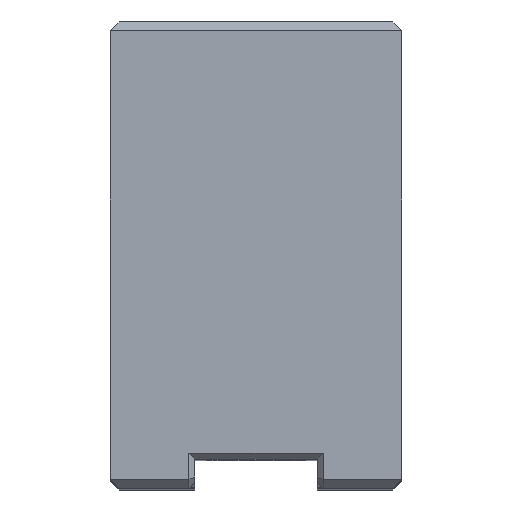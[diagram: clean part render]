
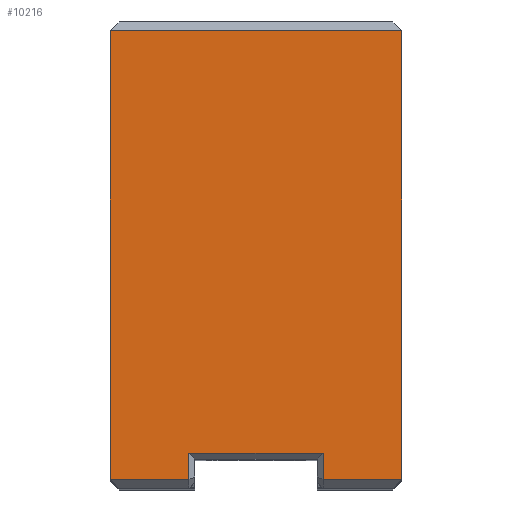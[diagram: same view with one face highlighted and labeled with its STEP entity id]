
A CAD part, top view. The second image highlights one B-rep face of the part: STEP entity #10216.
In plain terms, the highlighted planar face has unit normal (0, 0, 1).
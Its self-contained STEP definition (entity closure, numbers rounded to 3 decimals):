
#56=FACE_OUTER_BOUND('',#696,.T.);
#696=EDGE_LOOP('',(#7071,#7072,#7073,#7074,#7075,#7076,#7077,#7078));
#1751=LINE('',#15152,#3223);
#1753=LINE('',#15156,#3225);
#1755=LINE('',#15159,#3227);
#1761=LINE('',#15172,#3233);
#1763=LINE('',#15176,#3235);
#1764=LINE('',#15178,#3236);
#1765=LINE('',#15180,#3237);
#1766=LINE('',#15181,#3238);
#3223=VECTOR('',#11970,10.);
#3225=VECTOR('',#11974,10.);
#3227=VECTOR('',#11978,10.);
#3233=VECTOR('',#11990,10.);
#3235=VECTOR('',#11994,10.);
#3236=VECTOR('',#11995,10.);
#3237=VECTOR('',#11996,10.);
#3238=VECTOR('',#11997,10.);
#4683=VERTEX_POINT('',#15137);
#4685=VERTEX_POINT('',#15143);
#4687=VERTEX_POINT('',#15151);
#4688=VERTEX_POINT('',#15155);
#4692=VERTEX_POINT('',#15171);
#4693=VERTEX_POINT('',#15175);
#4694=VERTEX_POINT('',#15177);
#4695=VERTEX_POINT('',#15179);
#5547=EDGE_CURVE('',#4685,#4687,#1751,.T.);
#5549=EDGE_CURVE('',#4687,#4688,#1753,.T.);
#5551=EDGE_CURVE('',#4688,#4683,#1755,.T.);
#5557=EDGE_CURVE('',#4683,#4692,#1761,.T.);
#5559=EDGE_CURVE('',#4693,#4685,#1763,.T.);
#5560=EDGE_CURVE('',#4693,#4694,#1764,.T.);
#5561=EDGE_CURVE('',#4695,#4694,#1765,.T.);
#5562=EDGE_CURVE('',#4692,#4695,#1766,.T.);
#7071=ORIENTED_EDGE('',*,*,#5551,.F.);
#7072=ORIENTED_EDGE('',*,*,#5549,.F.);
#7073=ORIENTED_EDGE('',*,*,#5547,.F.);
#7074=ORIENTED_EDGE('',*,*,#5559,.F.);
#7075=ORIENTED_EDGE('',*,*,#5560,.T.);
#7076=ORIENTED_EDGE('',*,*,#5561,.F.);
#7077=ORIENTED_EDGE('',*,*,#5562,.F.);
#7078=ORIENTED_EDGE('',*,*,#5557,.F.);
#9584=PLANE('',#10879);
#10216=ADVANCED_FACE('',(#56),#9584,.T.);
#10879=AXIS2_PLACEMENT_3D('',#15174,#11992,#11993);
#11970=DIRECTION('',(0.,1.,0.));
#11974=DIRECTION('',(-1.,0.,0.));
#11978=DIRECTION('',(0.,-1.,0.));
#11990=DIRECTION('',(-1.,0.,0.));
#11992=DIRECTION('center_axis',(0.,0.,1.));
#11993=DIRECTION('ref_axis',(1.,0.,0.));
#11994=DIRECTION('',(-1.,0.,0.));
#11995=DIRECTION('',(0.,1.,0.));
#11996=DIRECTION('',(1.,0.,0.));
#11997=DIRECTION('',(0.,1.,0.));
#15137=CARTESIAN_POINT('',(-11.5,1.5,90.));
#15143=CARTESIAN_POINT('',(11.5,1.5,90.));
#15151=CARTESIAN_POINT('',(11.5,6.,90.));
#15152=CARTESIAN_POINT('',(11.5,2.5,90.));
#15155=CARTESIAN_POINT('',(-11.5,6.,90.));
#15156=CARTESIAN_POINT('',(-17.75,6.,90.));
#15159=CARTESIAN_POINT('',(-11.5,0.,90.));
#15171=CARTESIAN_POINT('',(-25.,1.5,90.));
#15172=CARTESIAN_POINT('',(-12.5,1.5,90.));
#15174=CARTESIAN_POINT('Origin',(-25.,0.,90.));
#15175=CARTESIAN_POINT('',(25.,1.5,90.));
#15176=CARTESIAN_POINT('',(-12.5,1.5,90.));
#15177=CARTESIAN_POINT('',(25.,78.5,90.));
#15178=CARTESIAN_POINT('',(25.,0.,90.));
#15179=CARTESIAN_POINT('',(-25.,78.5,90.));
#15180=CARTESIAN_POINT('',(-12.5,78.5,90.));
#15181=CARTESIAN_POINT('',(-25.,0.,90.));
